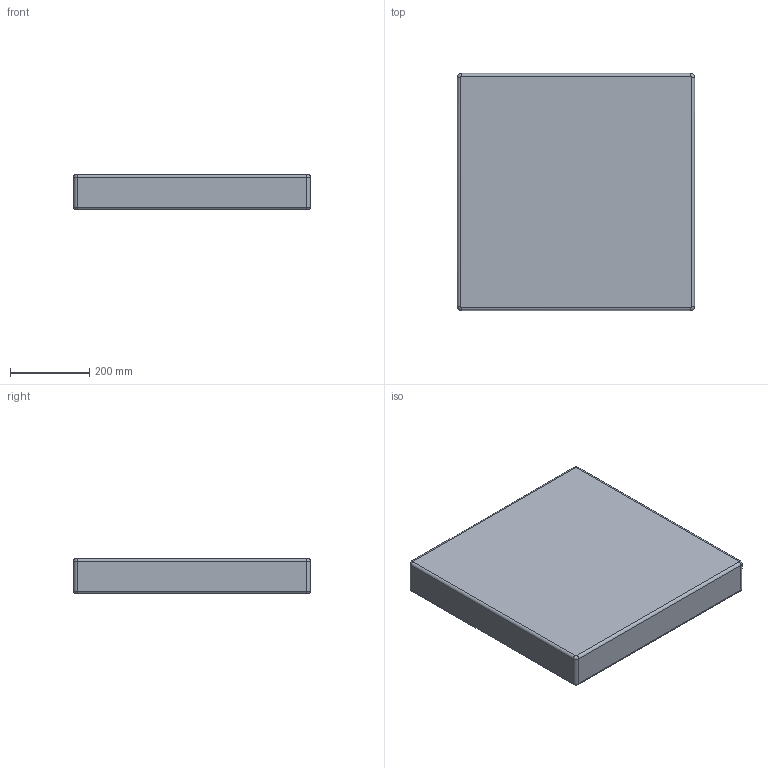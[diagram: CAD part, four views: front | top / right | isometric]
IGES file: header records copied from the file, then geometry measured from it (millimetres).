
Global section: file name: C:\Users\alberto.volpato\Desktop\Files\SCOCCAI.igs; native system: Rhinoceros ( Mar  9 2011 ); preprocessor: Trout Lake IGES 012 Mar  9 2011; date: 160505.081750; units: millimetre
Bounding box: 600 x 600 x 88 mm (x, y, z)
Surface area: 1046161.2 mm2 (no closed solid volume)
Topology: 0 solids, 0 shells, 31 faces, 168 edges, 168 vertices
Faces by surface type: bspline 31
